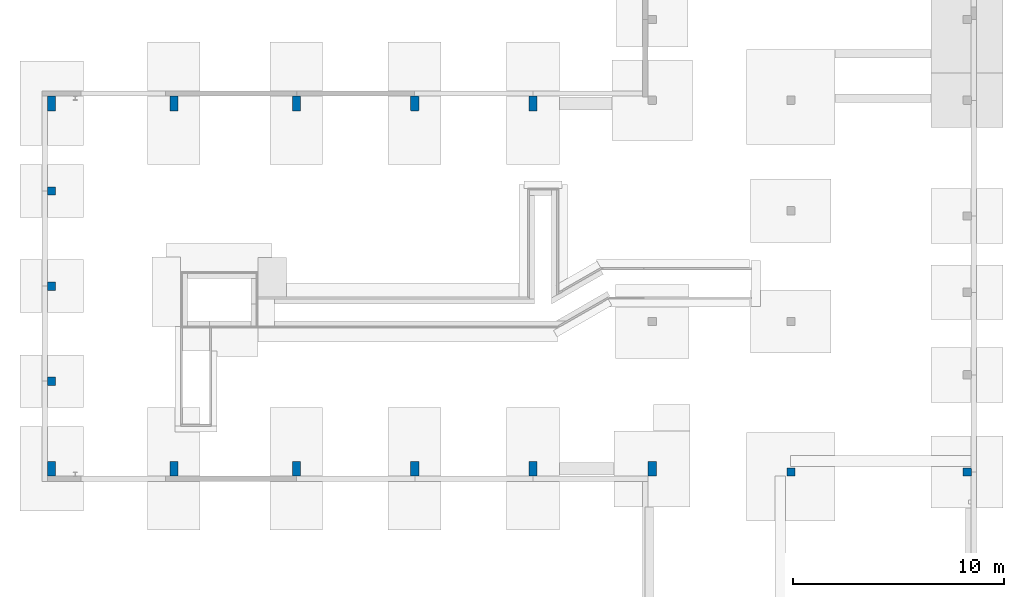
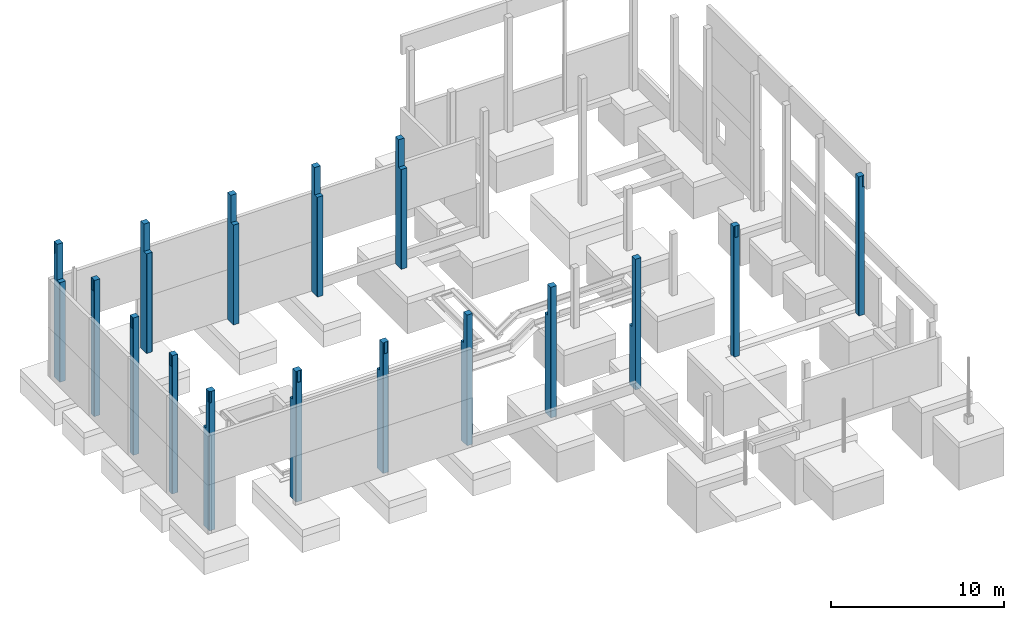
# One storey, part 11 of 12: 16 columns.
"""IFC4X3_ADD2 building model written with IfcOpenShell, lengths in millimetres."""

from ifc_helpers import new_model, si_unit, direction, frame, origin_with_axes, place, context, subcontext, project, spatial, polygons, element, save


model = new_model("IFC4X3_ADD2")

# Units and contexts
model_context = context("Model", 3, precision=1e-05, world=origin_with_axes(), true_north=direction((0.0, 1.0)))
body_context = subcontext(model_context, "Body", "Model", "MODEL_VIEW")
ifc_project = project(units=[si_unit("LENGTHUNIT", "METRE", prefix="MILLI"), si_unit("AREAUNIT", "SQUARE_METRE"), si_unit("VOLUMEUNIT", "CUBIC_METRE"), si_unit("PLANEANGLEUNIT", "RADIAN"), si_unit("TIMEUNIT", "SECOND"), si_unit("MASSUNIT", "GRAM")], contexts=[model_context])

# Site, building, storey
site_placement = place(None, origin_with_axes())
site = spatial("IfcSite", under=ifc_project, at=site_placement, Name="Site", CompositionType="ELEMENT")
building_placement = place(site_placement, origin_with_axes())
building = spatial("IfcBuilding", under=site, at=building_placement, Name="IFC Building Story")
storey_placement = place(building_placement, frame((0.0, 0.0, -800.0), z_axis=(0.0, 0.0, 1.0), x_axis=(1.0, 0.0, 0.0)))
storey = spatial("IfcBuildingStorey", under=building, at=storey_placement, Name="FOND 00 (0)", Elevation=-800.0)

# Columns
column_1_placement = place(storey_placement, frame((0.0, 0.0, 800.0), z_axis=(0.0, 0.0, 1.0), x_axis=(1.0, 0.0, 0.0)))
element("IfcColumn", 1, at=column_1_placement, inside=storey, Name="COLUMN", ObjectType="EB_CR_390*390*15", context=body_context, shape_type="Tessellation", body=[
    polygons([(48488.188, 130.0, 9060.0), (48488.188, 18.0, 9060.0), (48488.188, 18.0, 8270.0), (48488.188, 130.0, 8270.0), (48506.188, 18.0, 8270.0), (48506.188, 130.0, 8270.0), (48506.188, 130.0, 9060.0), (48376.188, 18.0, 9060.0), (48376.188, 0.0, 9060.0), (48376.188, 0.0, 8270.0), (48376.188, 18.0, 8270.0), (48491.188, 0.0, -760.0), (48131.18799999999, 0.0, -760.0), (48116.188, 15.0, -760.0), (48116.188, 375.0, -760.0), (48131.18799999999, 390.0, -760.0), (48491.188, 390.0, -760.0), (48506.188, 375.0, -760.0), (48506.188, 15.0, -760.0), (48488.188, 0.0, 8270.0), (48131.18799999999, 0.0, 9060.0), (48491.188, 0.0, 8270.0), (48116.188, 15.0, 9060.0), (48116.188, 375.0, 9060.0), (48131.188, 390.0, 9060.0), (48491.188, 390.0, 9060.0), (48506.188, 375.000000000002, 9060.0), (48506.188, 15.0, 8270.0)], [[[1, 2, 3, 4]], [[5, 6, 4, 3]], [[6, 7, 1, 4]], [[8, 9, 10, 11]], [[12, 13, 14]], [[12, 14, 15]], [[12, 15, 16]], [[12, 16, 17]], [[12, 17, 18]], [[12, 18, 19]], [[10, 9, 21]], [[10, 21, 13]], [[10, 13, 12]], [[12, 20, 10]], [[12, 22, 20]], [[23, 14, 13, 21]], [[24, 15, 14, 23]], [[25, 16, 15, 24]], [[26, 17, 16, 25]], [[27, 18, 17, 26]], [[5, 28, 19]], [[19, 6, 5]], [[19, 18, 27]], [[19, 27, 6]], [[27, 7, 6]], [[22, 12, 19, 28]], [[3, 11, 10]], [[3, 10, 20]], [[20, 22, 28]], [[20, 28, 5]], [[20, 5, 3]], [[2, 8, 11, 3]], [[1, 7, 27]], [[27, 26, 8]], [[27, 8, 1]], [[8, 2, 1]], [[26, 25, 24]], [[26, 24, 23]], [[26, 23, 8]], [[23, 21, 9]], [[23, 9, 8]]]),
])
column_2_placement = place(storey_placement, frame((0.0, 0.0, 800.0), z_axis=(0.0, 0.0, 1.0), x_axis=(1.0, 0.0, 0.0)))
element("IfcColumn", 2, at=column_2_placement, inside=storey, Name="COLUMN", ObjectType="EB_CR_390*390*15", context=body_context, shape_type="Tessellation", body=[
    polygons([(39856.18900000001, 18.0000000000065, 8460.0), (39856.18900000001, 0.0, 8460.0), (39856.18900000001, 0.0, 7660.0), (39856.18900000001, 18.0000000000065, 7660.0), (40076.18900000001, 0.0, 7660.0), (40076.18900000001, 18.0000000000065, 7660.0), (40076.18900000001, 0.0, 8460.0), (40076.18900000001, 18.0000000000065, 8460.0), (40146.189, 0.0, -760.0), (39786.18900000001, 0.0, -760.0), (39771.189, 15.0000000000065, -760.0), (39771.189, 375.000000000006, -760.0), (39786.18900000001, 390.0, -760.0), (40146.189, 390.0, -760.0), (40161.189, 375.000000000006, -760.0), (40161.189, 15.0000000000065, -760.0), (39771.189, 15.000000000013, 8460.0), (39786.18900000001, 0.0, 8460.0), (39771.189, 375.000000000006, 8460.0), (39786.18900000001, 390.0, 8460.0), (40146.189, 390.0, 8460.0), (40161.189, 375.000000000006, 8460.0), (40161.189, 15.0000000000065, 8460.0), (40146.189, 0.0, 8460.0)], [[[1, 2, 3, 4]], [[3, 5, 6, 4]], [[7, 8, 6, 5]], [[8, 1, 4, 6]], [[9, 10, 11]], [[9, 11, 12]], [[9, 12, 13]], [[9, 13, 14]], [[9, 14, 15]], [[9, 15, 16]], [[17, 11, 10, 18]], [[19, 12, 11, 17]], [[20, 13, 12, 19]], [[21, 14, 13, 20]], [[22, 15, 14, 21]], [[23, 16, 15, 22]], [[24, 9, 16, 23]], [[3, 2, 18]], [[3, 18, 10]], [[10, 9, 5]], [[10, 5, 3]], [[9, 24, 5]], [[24, 7, 5]], [[8, 7, 24]], [[8, 24, 23]], [[8, 23, 22]], [[8, 22, 21]], [[21, 20, 1]], [[21, 1, 8]], [[20, 19, 17]], [[20, 17, 1]], [[17, 18, 2]], [[17, 2, 1]]]),
])
column_3_placement = place(storey_placement, frame((0.0, 0.0, 800.0), z_axis=(0.0, 0.0, 1.0), x_axis=(1.0, 0.0, 0.0)))
element("IfcColumn", 3, at=column_3_placement, inside=storey, Name="COLUMN", ObjectType="EB_CR_390*390*15", context=body_context, shape_type="Tessellation", body=[
    polygons([(4766.189777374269, 4610.000202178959, 8200.0), (4766.189777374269, 4390.000202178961, 8200.0), (4784.189777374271, 4390.000202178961, 8200.0), (4784.189777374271, 4610.000202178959, 8200.0), (4766.189777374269, 4390.000202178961, 9000.0), (4784.189777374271, 4390.000202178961, 9000.0), (4784.189777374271, 4610.000202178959, 9000.0), (4766.189777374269, 4610.000202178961, 9000.0), (5141.189777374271, 4305.000202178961, -760.0), (4781.189777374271, 4305.000202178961, -760.0), (4766.189777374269, 4320.000202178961, -760.0), (4766.189777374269, 4680.000202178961, -760.0), (4781.189777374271, 4695.000202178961, -760.0), (5141.189777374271, 4695.000202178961, -760.0), (5156.18977737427, 4680.000202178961, -760.0), (5156.18977737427, 4320.000202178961, -760.0), (4781.189777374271, 4695.000202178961, 9000.0), (4766.189777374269, 4680.000202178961, 9000.0), (5141.189777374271, 4695.000202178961, 9000.0), (5156.18977737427, 4680.000202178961, 9000.0), (5156.18977737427, 4320.000202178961, 9000.0), (5141.18977737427, 4305.000202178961, 9000.0), (4781.189777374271, 4305.000202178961, 9000.0), (4766.189777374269, 4320.000202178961, 9000.0)], [[[1, 2, 3, 4]], [[5, 6, 3, 2]], [[6, 7, 4, 3]], [[7, 8, 1, 4]], [[9, 10, 11]], [[9, 11, 12]], [[9, 12, 13]], [[9, 13, 14]], [[9, 14, 15]], [[9, 15, 16]], [[17, 13, 12, 18]], [[19, 14, 13, 17]], [[20, 15, 14, 19]], [[21, 16, 15, 20]], [[22, 9, 16, 21]], [[23, 10, 9, 22]], [[24, 11, 10, 23]], [[1, 8, 18]], [[1, 18, 12]], [[12, 11, 2]], [[12, 2, 1]], [[11, 24, 2]], [[24, 5, 2]], [[6, 5, 24]], [[6, 24, 23]], [[6, 23, 22]], [[6, 22, 21]], [[21, 20, 7]], [[21, 7, 6]], [[20, 19, 17]], [[20, 17, 7]], [[17, 18, 8]], [[17, 8, 7]]]),
])
column_4_placement = place(storey_placement, frame((0.0, 0.0, 800.0), z_axis=(0.0, 0.0, 1.0), x_axis=(1.0, 0.0, 0.0)))
element("IfcColumn", 4, at=column_4_placement, inside=storey, Name="COLUMN", ObjectType="EB_CR_390*390*15", context=body_context, shape_type="Tessellation", body=[
    polygons([(4766.189777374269, 9109.9997253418, 8130.0), (4766.189777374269, 8889.9997253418, 8130.0), (4784.189777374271, 8889.9997253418, 8130.0), (4784.189777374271, 9109.9997253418, 8130.0), (4766.189777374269, 8889.9997253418, 8930.0), (4784.189777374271, 8889.9997253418, 8930.0), (4784.189777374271, 9109.9997253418, 8930.0), (4766.189777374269, 9109.9997253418, 8930.0), (5141.189777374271, 8804.9997253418, -760.0), (4781.189777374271, 8804.9997253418, -760.0), (4766.189777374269, 8819.9997253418, -760.0), (4766.189777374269, 9179.9997253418, -760.0), (4781.189777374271, 9194.9997253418, -760.0), (5141.189777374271, 9194.9997253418, -760.0), (5156.18977737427, 9179.9997253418, -760.0), (5156.18977737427, 8819.9997253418, -760.0), (4781.189777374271, 9194.9997253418, 8930.0), (4766.189777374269, 9179.9997253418, 8930.0), (5141.189777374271, 9194.9997253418, 8930.0), (5156.18977737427, 9179.999725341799, 8930.0), (5156.18977737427, 8819.9997253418, 8930.0), (5141.18977737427, 8804.9997253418, 8930.0), (4781.189777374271, 8804.9997253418, 8930.0), (4766.189777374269, 8819.9997253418, 8930.0)], [[[1, 2, 3, 4]], [[5, 6, 3, 2]], [[6, 7, 4, 3]], [[7, 8, 1, 4]], [[9, 10, 11]], [[9, 11, 12]], [[9, 12, 13]], [[9, 13, 14]], [[9, 14, 15]], [[9, 15, 16]], [[17, 13, 12, 18]], [[19, 14, 13, 17]], [[20, 15, 14, 19]], [[21, 16, 15, 20]], [[22, 9, 16, 21]], [[23, 10, 9, 22]], [[24, 11, 10, 23]], [[1, 8, 18]], [[1, 18, 12]], [[12, 11, 2]], [[12, 2, 1]], [[11, 24, 2]], [[24, 5, 2]], [[6, 5, 24]], [[6, 24, 23]], [[6, 23, 22]], [[6, 22, 21]], [[21, 20, 7]], [[21, 7, 6]], [[20, 19, 17]], [[20, 17, 7]], [[17, 18, 8]], [[17, 8, 7]]]),
])
column_5_placement = place(storey_placement, frame((0.0, 0.0, 800.0), z_axis=(0.0, 0.0, 1.0), x_axis=(1.0, 0.0, 0.0)))
element("IfcColumn", 5, at=column_5_placement, inside=storey, Name="COLUMN", ObjectType="EB_CR_390*390*15", context=body_context, shape_type="Tessellation", body=[
    polygons([(4766.189777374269, 13609.9997253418, 8060.0), (4766.189777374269, 13389.9997253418, 8060.0), (4784.189777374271, 13389.9997253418, 8060.0), (4784.189777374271, 13609.9997253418, 8060.0), (4766.189777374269, 13389.9997253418, 8860.0), (4784.189777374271, 13389.9997253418, 8860.0), (4784.189777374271, 13609.9997253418, 8860.0), (4766.189777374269, 13609.9997253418, 8860.0), (5141.189777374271, 13304.9997253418, -760.0), (4781.189777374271, 13304.9997253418, -760.0), (4766.189777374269, 13319.9997253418, -760.0), (4766.189777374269, 13679.9997253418, -760.0), (4781.189777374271, 13694.9997253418, -760.0), (5141.189777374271, 13694.9997253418, -760.0), (5156.18977737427, 13679.9997253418, -760.0), (5156.18977737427, 13319.9997253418, -760.0), (4781.18977737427, 13694.9997253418, 8860.0), (4766.189777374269, 13679.9997253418, 8860.0), (5141.189777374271, 13694.9997253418, 8860.0), (5156.18977737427, 13679.9997253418, 8860.0), (5156.18977737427, 13319.9997253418, 8860.0), (5141.189777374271, 13304.9997253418, 8860.0), (4781.189777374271, 13304.9997253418, 8860.0), (4766.189777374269, 13319.9997253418, 8860.0)], [[[1, 2, 3, 4]], [[5, 6, 3, 2]], [[6, 7, 4, 3]], [[7, 8, 1, 4]], [[9, 10, 11]], [[9, 11, 12]], [[9, 12, 13]], [[9, 13, 14]], [[9, 14, 15]], [[9, 15, 16]], [[17, 13, 12, 18]], [[19, 14, 13, 17]], [[20, 15, 14, 19]], [[21, 16, 15, 20]], [[22, 9, 16, 21]], [[23, 10, 9, 22]], [[24, 11, 10, 23]], [[1, 8, 18]], [[1, 18, 12]], [[12, 11, 2]], [[12, 2, 1]], [[11, 24, 2]], [[24, 5, 2]], [[6, 5, 24]], [[6, 24, 23]], [[6, 23, 22]], [[6, 22, 21]], [[21, 20, 7]], [[21, 7, 6]], [[20, 19, 17]], [[20, 17, 7]], [[17, 18, 8]], [[17, 8, 7]]]),
])
column_6_placement = place(storey_placement, frame((0.0, 0.0, 800.0), z_axis=(0.0, 0.0, 1.0), x_axis=(1.0, 0.0, 0.0)))
element("IfcColumn", 6, at=column_6_placement, inside=storey, Name="COLUMN", ObjectType="EB_CR_700*390*15", context=body_context, shape_type="Tessellation", body=[
    polygons([(4784.189348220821, -3.62396240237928e-05, 8270.0), (4896.18934822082, -3.62396240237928e-05, 8270.0), (4896.18934822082, 17.99996376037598, 8270.0), (4784.189348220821, 17.99996376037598, 8270.0), (4896.18934822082, -3.62396240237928e-05, 9060.0), (4896.18934822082, 17.99996376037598, 9060.0), (4784.189348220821, 17.99996376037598, 9060.0), (4781.189348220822, 699.999963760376, 6280.0), (4781.189348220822, 699.999963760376, -760.0), (4766.18934822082, 684.999963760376, -760.0), (4766.18934822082, 684.999963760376, 6280.0), (5141.189348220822, 699.999963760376, 6280.0), (5141.189348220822, 699.999963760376, -760.0), (5156.18934822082, 684.9999637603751, 6280.0), (5156.18934822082, 684.999963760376, -760.0), (5141.189348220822, -3.62396240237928e-05, -760.0), (4781.189348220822, -3.62396240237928e-05, -760.0), (4766.18934822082, 14.99996376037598, -760.0), (5156.18934822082, 14.99996376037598, -760.0), (4784.189348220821, 129.999963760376, 9060.0), (4766.18934822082, 129.999963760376, 9060.0), (4766.18934822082, 129.999963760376, 8270.0), (4784.189348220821, 129.999963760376, 8270.0), (4766.18934822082, 399.999963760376, 9060.0), (4766.18934822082, 399.999963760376, 6280.0), (4766.18934822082, 14.99996376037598, 8270.0), (4766.18934822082, 17.99996376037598, 8270.0), (5156.18934822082, 399.999963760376, 9060.0), (5156.18934822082, 399.999963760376, 6280.0), (5156.18934822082, 14.99996376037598, 9060.0), (5141.189348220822, -3.62396240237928e-05, 9060.0), (4781.189348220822, -3.62396240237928e-05, 8270.0)], [[[1, 2, 3, 4]], [[5, 6, 3, 2]], [[6, 7, 4, 3]], [[8, 9, 10, 11]], [[12, 13, 9, 8]], [[14, 15, 13, 12]], [[16, 17, 18]], [[16, 18, 10]], [[16, 10, 9]], [[16, 9, 13]], [[16, 13, 15]], [[16, 15, 19]], [[20, 21, 22, 23]], [[25, 11, 10]], [[10, 18, 26]], [[10, 26, 25]], [[22, 21, 24]], [[22, 24, 25]], [[25, 27, 22]], [[25, 26, 27]], [[24, 28, 29, 25]], [[29, 14, 12]], [[29, 12, 8]], [[29, 8, 11]], [[29, 11, 25]], [[29, 28, 30]], [[29, 30, 19]], [[19, 15, 29]], [[15, 14, 29]], [[31, 16, 19, 30]], [[1, 32, 17]], [[17, 2, 1]], [[17, 16, 31]], [[17, 31, 2]], [[31, 5, 2]], [[26, 18, 17, 32]], [[4, 23, 22]], [[4, 22, 27]], [[27, 26, 32]], [[27, 32, 1]], [[27, 1, 4]], [[7, 20, 23, 4]], [[6, 5, 31]], [[31, 30, 20]], [[31, 20, 6]], [[20, 7, 6]], [[30, 28, 24]], [[30, 24, 20]], [[24, 21, 20]]]),
])
column_7_placement = place(storey_placement, frame((0.0, 0.0, 800.0), z_axis=(0.0, 0.0, 1.0), x_axis=(1.0, 0.0, 0.0)))
element("IfcColumn", 7, at=column_7_placement, inside=storey, Name="COLUMN", ObjectType="EB_CR_700*390*15", context=body_context, shape_type="Tessellation", body=[
    polygons([(4784.189348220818, 17981.9997253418, 8010.0), (4766.18934822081, 17981.9997253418, 8010.0), (4766.18934822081, 17869.9997253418, 8010.0), (4784.189348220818, 17869.9997253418, 8010.0), (4766.18934822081, 17869.9997253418, 8800.0), (4784.189348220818, 17869.9997253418, 8800.0), (4784.189348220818, 17981.9997253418, 8800.0), (5156.18934822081, 17599.9997253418, 6280.0), (5156.18934822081, 17314.9997253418, 6280.0), (5156.18934822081, 17314.9997253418, -760.0), (5156.18934822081, 17984.9997253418, -760.0), (5156.18934822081, 17984.9997253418, 8800.0), (5156.18934822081, 17599.9997253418, 8800.0), (4766.18934822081, 17599.9997253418, 8800.0), (4766.18934822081, 17599.9997253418, 6280.0), (4766.18934822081, 17314.9997253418, 6280.0), (4766.18934822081, 17314.9997253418, -760.0), (4781.189348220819, 17299.9997253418, -760.0), (4781.189348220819, 17299.9997253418, 6280.0), (5141.189348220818, 17299.9997253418, -760.0), (5141.189348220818, 17299.9997253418, 6280.0), (4766.18934822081, 17984.9997253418, -760.0), (4781.189348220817, 17999.9997253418, -760.0), (5141.189348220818, 17999.9997253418, -760.0), (5141.189348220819, 17999.9997253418, 8800.0), (4896.18934822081, 17999.9997253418, 8800.0), (4896.18934822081, 17981.9997253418, 8800.0), (4766.18934822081, 17984.9997253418, 8010.0), (4781.189348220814, 17999.9997253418, 8010.0), (4784.189348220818, 17999.9997253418, 8010.0), (4896.18934822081, 17999.9997253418, 8010.0), (4896.18934822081, 17981.9997253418, 8010.0)], [[[1, 2, 3, 4]], [[5, 6, 4, 3]], [[6, 7, 1, 4]], [[8, 9, 10]], [[10, 11, 12]], [[10, 12, 8]], [[12, 13, 8]], [[8, 13, 14, 15]], [[16, 17, 18, 19]], [[19, 18, 20, 21]], [[9, 8, 15]], [[9, 15, 16]], [[9, 16, 19]], [[9, 19, 21]], [[21, 20, 10, 9]], [[20, 18, 17]], [[20, 17, 22]], [[20, 22, 23]], [[20, 23, 24]], [[20, 24, 11]], [[20, 11, 10]], [[12, 11, 24, 25]], [[6, 5, 14]], [[6, 14, 27]], [[27, 7, 6]], [[14, 13, 12]], [[14, 12, 27]], [[12, 25, 26]], [[12, 26, 27]], [[2, 28, 22]], [[3, 2, 15]], [[15, 14, 5]], [[15, 5, 3]], [[15, 2, 22]], [[15, 22, 17]], [[17, 16, 15]], [[29, 23, 22, 28]], [[31, 26, 25]], [[31, 25, 24]], [[31, 24, 23]], [[23, 30, 31]], [[23, 29, 30]], [[27, 26, 31, 32]], [[30, 29, 28]], [[30, 28, 2]], [[30, 2, 1]], [[1, 32, 31]], [[1, 31, 30]], [[7, 27, 32, 1]]]),
])
column_8_placement = place(storey_placement, frame((0.0, 0.0, 800.0), z_axis=(0.0, 0.0, 1.0), x_axis=(1.0, 0.0, 0.0)))
element("IfcColumn", 8, at=column_8_placement, inside=storey, Name="COLUMN", ObjectType="EB_CR_700*390*15", context=body_context, shape_type="Tessellation", body=[
    polygons([(10646.1886362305, 17.99996376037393, 8460.0), (10646.1886362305, -3.6239626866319e-05, 8460.0), (10646.1886362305, -3.6239626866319e-05, 7660.0), (10646.1886362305, 17.99996376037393, 7660.0), (10866.1886362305, -3.6239626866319e-05, 7660.0), (10866.1886362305, 17.99996376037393, 7660.0), (10866.1886362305, -3.6239626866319e-05, 8460.0), (10866.1886362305, 17.99996376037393, 8460.0), (10576.1886362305, 699.9999637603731, 6280.0), (10576.1886362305, 699.9999637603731, -760.0), (10561.1886362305, 684.9999637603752, -760.0), (10561.1886362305, 684.9999637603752, 6280.0), (10936.1886362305, 699.9999637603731, 6280.0), (10936.1886362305, 699.9999637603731, -760.0), (10951.1886362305, 684.9999637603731, 6280.0), (10951.1886362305, 684.9999637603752, -760.0), (10936.1886362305, -3.6239626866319e-05, -760.0), (10576.1886362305, -3.6239626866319e-05, -760.0), (10561.1886362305, 14.99996376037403, -760.0), (10951.1886362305, 14.99996376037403, -760.0), (10561.1886362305, 14.99996376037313, 8460.0), (10576.1886362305, -3.6239626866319e-05, 8460.0), (10561.1886362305, 399.9999637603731, 8460.0), (10561.1886362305, 399.9999637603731, 6280.0), (10951.1886362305, 399.9999637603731, 8460.0), (10951.1886362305, 399.9999637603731, 6280.0), (10951.1886362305, 14.99996376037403, 8460.0), (10936.1886362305, -3.6239626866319e-05, 8460.0)], [[[1, 2, 3, 4]], [[3, 5, 6, 4]], [[7, 8, 6, 5]], [[8, 1, 4, 6]], [[9, 10, 11, 12]], [[13, 14, 10, 9]], [[15, 16, 14, 13]], [[17, 18, 19]], [[17, 19, 11]], [[17, 11, 10]], [[17, 10, 14]], [[17, 14, 16]], [[17, 16, 20]], [[21, 19, 18, 22]], [[24, 12, 11]], [[11, 19, 21]], [[11, 21, 24]], [[21, 23, 24]], [[23, 25, 26, 24]], [[26, 15, 13]], [[26, 13, 9]], [[26, 9, 12]], [[26, 12, 24]], [[26, 25, 27]], [[26, 27, 20]], [[26, 20, 16]], [[16, 15, 26]], [[28, 17, 20, 27]], [[3, 2, 22]], [[3, 22, 18]], [[18, 17, 5]], [[18, 5, 3]], [[17, 28, 5]], [[28, 7, 5]], [[8, 7, 28]], [[8, 28, 27]], [[8, 27, 25]], [[25, 23, 1]], [[25, 1, 8]], [[23, 21, 1]], [[21, 22, 2]], [[21, 2, 1]]]),
])
column_9_placement = place(storey_placement, frame((0.0, 0.0, 800.0), z_axis=(0.0, 0.0, 1.0), x_axis=(1.0, 0.0, 0.0)))
element("IfcColumn", 9, at=column_9_placement, inside=storey, Name="COLUMN", ObjectType="EB_CR_700*390*15", context=body_context, shape_type="Tessellation", body=[
    polygons([(16446.1888269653, 17.99996376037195, 8460.0), (16446.1888269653, -3.62396279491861e-05, 8460.0), (16446.1888269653, -3.62396279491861e-05, 7660.0), (16446.1888269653, 17.99996376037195, 7660.0), (16666.1888269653, -3.62396279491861e-05, 7660.0), (16666.1888269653, 17.99996376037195, 7660.0), (16666.1888269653, -3.62396279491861e-05, 8460.0), (16666.1888269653, 17.99996376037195, 8460.0), (16376.1888269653, 699.999963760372, 6280.0), (16376.1888269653, 699.999963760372, -760.0), (16361.1888269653, 684.999963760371, -760.0), (16361.1888269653, 684.999963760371, 6280.0), (16736.1888269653, 699.999963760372, 6280.0), (16736.1888269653, 699.999963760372, -760.0), (16751.1888269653, 684.999963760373, 6280.0), (16751.1888269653, 684.999963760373, -760.0), (16736.1888269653, -3.62396279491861e-05, -760.0), (16376.1888269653, -3.62396279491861e-05, -760.0), (16361.1888269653, 14.99996376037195, -760.0), (16751.1888269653, 14.99996376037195, -760.0), (16361.1888269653, 14.99996376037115, 8460.0), (16376.1888269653, -3.62396279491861e-05, 8460.0), (16361.1888269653, 399.999963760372, 8460.0), (16361.1888269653, 399.999963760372, 6280.0), (16751.1888269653, 399.999963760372, 8460.0), (16751.1888269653, 399.999963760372, 6280.0), (16751.1888269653, 14.99996376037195, 8460.0), (16736.1888269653, -3.62396279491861e-05, 8460.0)], [[[1, 2, 3, 4]], [[3, 5, 6, 4]], [[7, 8, 6, 5]], [[8, 1, 4, 6]], [[9, 10, 11, 12]], [[13, 14, 10, 9]], [[15, 16, 14, 13]], [[17, 18, 19]], [[17, 19, 11]], [[17, 11, 10]], [[17, 10, 14]], [[17, 14, 16]], [[17, 16, 20]], [[21, 19, 18, 22]], [[24, 12, 11]], [[11, 19, 21]], [[11, 21, 24]], [[21, 23, 24]], [[23, 25, 26, 24]], [[26, 15, 13]], [[26, 13, 9]], [[26, 9, 12]], [[26, 12, 24]], [[26, 25, 27]], [[26, 27, 20]], [[26, 20, 16]], [[16, 15, 26]], [[28, 17, 20, 27]], [[3, 2, 22]], [[3, 22, 18]], [[18, 17, 5]], [[18, 5, 3]], [[17, 28, 5]], [[28, 7, 5]], [[8, 7, 28]], [[8, 28, 27]], [[8, 27, 25]], [[25, 23, 1]], [[25, 1, 8]], [[23, 21, 1]], [[21, 22, 2]], [[21, 2, 1]]]),
])
column_10_placement = place(storey_placement, frame((0.0, 0.0, 800.0), z_axis=(0.0, 0.0, 1.0), x_axis=(1.0, 0.0, 0.0)))
element("IfcColumn", 10, at=column_10_placement, inside=storey, Name="COLUMN", ObjectType="EB_CR_700*390*15", context=body_context, shape_type="Tessellation", body=[
    polygons([(10866.18863623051, 17999.9997253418, 7399.94999999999), (10646.18863623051, 17999.9997253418, 7399.94999999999), (10646.18863623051, 17981.9997253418, 7399.94999999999), (10866.18863623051, 17981.9997253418, 7399.94999999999), (10646.18863623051, 17999.9997253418, 8200.0), (10646.18863623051, 17981.9997253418, 8199.94999999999), (10866.18863623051, 17981.9997253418, 8199.94999999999), (10866.18863623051, 17999.9997253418, 8199.94999999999), (10576.18863623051, 17999.9997253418, 8200.0), (10576.18863623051, 17999.9997253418, -760.0), (10561.18863623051, 17984.9997253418, -760.0), (10561.18863623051, 17984.9997253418, 8200.0), (10951.1886355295, 17599.9997253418, 6280.0), (10951.1886355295, 17314.9997253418, 6280.0), (10951.1886355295, 17314.9997253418, -760.0), (10951.1886355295, 17984.9997253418, -760.0), (10951.1886355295, 17984.9997253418, 8200.0), (10951.1886355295, 17599.9997253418, 8200.0), (10561.18863623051, 17599.9997253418, 8200.0), (10561.1886362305, 17599.9997253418, 6280.0), (10561.18863623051, 17314.9997253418, -760.0), (10561.18863623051, 17314.9997253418, 6280.0), (10576.18863623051, 17299.9997253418, -760.0), (10576.18863623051, 17299.9997253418, 6280.0), (10936.18863623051, 17299.9997253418, -760.0), (10936.18863623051, 17299.9997253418, 6280.0), (10936.18863623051, 17999.9997253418, -760.0), (10936.18863623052, 17999.9997253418, 8200.0), (10646.18863635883, 17999.99970810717, 8200.006189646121), (10561.1886355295, 17984.99981949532, 8199.966185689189), (10561.18863634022, 17600.0027970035, 8198.89418911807), (10951.1886355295, 17600.00281951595, 8198.886103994), (10936.18863623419, 17999.9997253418, 8200.000177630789), (10866.18863730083, 17999.99958158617, 8200.00162841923), (10576.18863638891, 17999.99970406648, 8200.00764082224)], [[[1, 2, 3, 4]], [[2, 5, 6, 3]], [[6, 7, 4, 3]], [[7, 8, 1, 4]], [[9, 10, 11, 12]], [[13, 14, 15]], [[15, 16, 17]], [[15, 17, 13]], [[17, 18, 13]], [[13, 18, 19, 20]], [[20, 19, 12]], [[20, 12, 11]], [[20, 11, 21]], [[21, 22, 20]], [[22, 21, 23, 24]], [[24, 23, 25, 26]], [[14, 13, 20]], [[14, 20, 22]], [[14, 22, 24]], [[14, 24, 26]], [[26, 25, 15, 14]], [[25, 23, 21]], [[25, 21, 11]], [[25, 11, 10]], [[25, 10, 27]], [[25, 27, 16]], [[25, 16, 15]], [[17, 16, 27, 28]], [[6, 29, 9]], [[6, 9, 30]], [[6, 30, 31]], [[31, 32, 7]], [[31, 7, 6]], [[32, 17, 7]], [[17, 33, 8]], [[17, 8, 7]], [[1, 34, 28]], [[1, 28, 27]], [[27, 10, 2]], [[27, 2, 1]], [[10, 35, 2]], [[35, 5, 2]]]),
])
column_11_placement = place(storey_placement, frame((0.0, 0.0, 800.0), z_axis=(0.0, 0.0, 1.0), x_axis=(1.0, 0.0, 0.0)))
element("IfcColumn", 11, at=column_11_placement, inside=storey, Name="COLUMN", ObjectType="EB_CR_700*390*15", context=body_context, shape_type="Tessellation", body=[
    polygons([(16666.18882696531, 17999.9997253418, 7399.94999999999), (16446.18882696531, 17999.9997253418, 7399.94999999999), (16446.18882696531, 17981.9997253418, 7399.94999999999), (16666.18882696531, 17981.9997253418, 7399.94999999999), (16446.18882696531, 17999.9997253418, 8200.0), (16446.18882696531, 17981.9997253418, 8199.94999999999), (16666.18882696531, 17981.9997253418, 8199.94999999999), (16666.18882696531, 17999.9997253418, 8199.94999999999), (16376.18882696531, 17999.9997253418, 8200.0), (16376.18882696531, 17999.9997253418, -760.0), (16361.18882696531, 17984.9997253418, -760.0), (16361.18882696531, 17984.9997253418, 8200.0), (16751.1888262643, 17599.9997253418, 6280.0), (16751.1888262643, 17314.9997253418, 6280.0), (16751.1888262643, 17314.9997253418, -760.0), (16751.1888262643, 17984.9997253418, -760.0), (16751.1888262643, 17984.9997253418, 8200.0), (16751.1888262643, 17599.9997253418, 8200.0), (16361.18882696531, 17599.9997253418, 8200.0), (16361.1888269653, 17599.9997253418, 6280.0), (16361.18882696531, 17314.9997253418, -760.0), (16361.18882696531, 17314.9997253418, 6280.0), (16376.18882696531, 17299.9997253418, -760.0), (16376.18882696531, 17299.9997253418, 6280.0), (16736.18882696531, 17299.9997253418, -760.0), (16736.18882696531, 17299.9997253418, 6280.0), (16736.18882696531, 17999.9997253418, -760.0), (16736.18882696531, 17999.9997253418, 8200.0), (16446.18882709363, 17999.99970810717, 8200.006189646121), (16361.1888262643, 17984.99981949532, 8199.966185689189), (16361.18882707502, 17600.0027970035, 8198.89418911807), (16751.1888262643, 17600.00281951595, 8198.886103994), (16736.188826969, 17999.9997253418, 8200.000177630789), (16666.18882803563, 17999.99958158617, 8200.00162841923), (16376.18882712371, 17999.99970406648, 8200.00764082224)], [[[1, 2, 3, 4]], [[2, 5, 6, 3]], [[6, 7, 4, 3]], [[7, 8, 1, 4]], [[9, 10, 11, 12]], [[13, 14, 15]], [[15, 16, 17]], [[15, 17, 13]], [[17, 18, 13]], [[13, 18, 19, 20]], [[20, 19, 12]], [[20, 12, 11]], [[20, 11, 21]], [[21, 22, 20]], [[22, 21, 23, 24]], [[24, 23, 25, 26]], [[14, 13, 20]], [[14, 20, 22]], [[14, 22, 24]], [[14, 24, 26]], [[26, 25, 15, 14]], [[25, 23, 21]], [[25, 21, 11]], [[25, 11, 10]], [[25, 10, 27]], [[25, 27, 16]], [[25, 16, 15]], [[17, 16, 27, 28]], [[6, 29, 9]], [[6, 9, 30]], [[6, 30, 31]], [[31, 32, 7]], [[31, 7, 6]], [[32, 17, 7]], [[17, 33, 8]], [[17, 8, 7]], [[1, 34, 28]], [[1, 28, 27]], [[27, 10, 2]], [[27, 2, 1]], [[10, 35, 2]], [[35, 5, 2]]]),
])
column_12_placement = place(storey_placement, frame((0.0, 0.0, 800.0), z_axis=(0.0, 0.0, 1.0), x_axis=(1.0, 0.0, 0.0)))
element("IfcColumn", 12, at=column_12_placement, inside=storey, Name="COLUMN", ObjectType="EB_CR_700*390*15", context=body_context, shape_type="Tessellation", body=[
    polygons([(22351.1892084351, 17314.9997253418, 6280.0), (22351.1892084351, 17599.9997253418, 6280.0), (21961.1892084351, 17599.9997253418, 6280.0), (21961.1892084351, 17314.9997253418, 6280.0), (21976.18920843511, 17299.9997253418, 6280.0), (22336.1892084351, 17299.9997253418, 6280.0), (22351.1892084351, 17599.9997253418, 8200.0), (21961.1892084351, 17599.9997253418, 8200.0), (22336.1892084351, 17299.9997253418, -760.0), (21976.18920843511, 17299.9997253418, -760.0), (21961.1892084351, 17314.9997253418, -760.0), (21961.1892084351, 17984.9997253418, -760.0), (21976.18920843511, 17999.9997253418, -760.0), (22336.1892084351, 17999.9997253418, -760.0), (22351.1892084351, 17984.9997253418, -760.0), (22351.1892084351, 17314.9997253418, -760.0), (21976.1892084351, 17999.9997253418, 8200.0), (21961.1892084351, 17984.9997253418, 8200.0), (22336.1892084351, 17999.9997253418, 8200.0), (22351.1892084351, 17984.9997253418, 8200.0)], [[[1, 2, 3]], [[1, 3, 4]], [[1, 4, 5]], [[1, 5, 6]], [[2, 7, 8, 3]], [[9, 10, 11]], [[9, 11, 12]], [[9, 12, 13]], [[9, 13, 14]], [[9, 14, 15]], [[9, 15, 16]], [[17, 13, 12, 18]], [[19, 14, 13, 17]], [[20, 15, 14, 19]], [[2, 1, 16]], [[16, 15, 20]], [[16, 20, 2]], [[20, 7, 2]], [[6, 9, 16, 1]], [[5, 10, 9, 6]], [[4, 11, 10, 5]], [[3, 8, 18]], [[3, 18, 12]], [[3, 12, 11]], [[11, 4, 3]], [[7, 20, 19]], [[7, 19, 17]], [[7, 17, 18]], [[7, 18, 8]]]),
])
column_13_placement = place(storey_placement, frame((0.0, 0.0, 800.0), z_axis=(0.0, 0.0, 1.0), x_axis=(1.0, 0.0, 0.0)))
element("IfcColumn", 13, at=column_13_placement, inside=storey, Name="COLUMN", ObjectType="EB_CR_700*390*15", context=body_context, shape_type="Tessellation", body=[
    polygons([(27951.1886362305, 17314.9997253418, 6280.0), (27951.1886362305, 17599.9997253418, 6280.0), (27561.1886362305, 17599.9997253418, 6280.0), (27561.1886362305, 17314.9997253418, 6280.0), (27576.18863623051, 17299.9997253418, 6280.0), (27936.18863623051, 17299.9997253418, 6280.0), (27951.1886362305, 17599.9997253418, 8200.0), (27561.1886362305, 17599.9997253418, 8200.0), (27936.18863623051, 17299.9997253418, -760.0), (27576.18863623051, 17299.9997253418, -760.0), (27561.1886362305, 17314.9997253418, -760.0), (27561.1886362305, 17984.9997253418, -760.0), (27576.18863623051, 17999.9997253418, -760.0), (27936.18863623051, 17999.9997253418, -760.0), (27951.1886362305, 17984.9997253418, -760.0), (27951.1886362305, 17314.9997253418, -760.0), (27576.18863623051, 17999.9997253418, 8200.0), (27561.1886362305, 17984.9997253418, 8200.0), (27936.18863623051, 17999.9997253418, 8200.0), (27951.1886362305, 17984.9997253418, 8200.0)], [[[1, 2, 3]], [[1, 3, 4]], [[1, 4, 5]], [[1, 5, 6]], [[2, 7, 8, 3]], [[9, 10, 11]], [[9, 11, 12]], [[9, 12, 13]], [[9, 13, 14]], [[9, 14, 15]], [[9, 15, 16]], [[17, 13, 12, 18]], [[19, 14, 13, 17]], [[20, 15, 14, 19]], [[2, 1, 16]], [[16, 15, 20]], [[16, 20, 2]], [[20, 7, 2]], [[6, 9, 16, 1]], [[5, 10, 9, 6]], [[4, 11, 10, 5]], [[3, 8, 18]], [[3, 18, 12]], [[3, 12, 11]], [[11, 4, 3]], [[7, 20, 19]], [[7, 19, 17]], [[7, 17, 18]], [[7, 18, 8]]]),
])
column_14_placement = place(storey_placement, frame((0.0, 0.0, 800.0), z_axis=(0.0, 0.0, 1.0), x_axis=(1.0, 0.0, 0.0)))
element("IfcColumn", 14, at=column_14_placement, inside=storey, Name="COLUMN", ObjectType="EB_CR_700*390*15", context=body_context, shape_type="Tessellation", body=[
    polygons([(21961.1892084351, 399.9999637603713, 8460.0), (22351.1892084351, 399.9999637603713, 8460.0), (22351.1892084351, 399.9999637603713, 6280.0), (21961.1892084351, 399.9999637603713, 6280.0), (22351.1892084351, 684.9999637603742, 6280.0), (22336.18920843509, 699.9999637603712, 6280.0), (21976.1892084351, 699.9999637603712, 6280.0), (21961.1892084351, 684.9999637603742, 6280.0), (21961.1892084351, 14.99996376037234, 8460.0), (21961.1892084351, 14.99996376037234, -760.0), (21976.1892084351, -3.62396287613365e-05, -760.0), (21976.1892084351, -3.62396287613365e-05, 8460.0), (22336.18920843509, -3.62396287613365e-05, -760.0), (22336.18920843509, -3.62396287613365e-05, 8460.0), (22351.1892084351, 14.99996376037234, -760.0), (22351.1892084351, 14.99996376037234, 8460.0), (21961.1892084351, 684.9999637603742, -760.0), (21976.1892084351, 699.9999637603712, -760.0), (22336.18920843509, 699.9999637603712, -760.0), (22351.1892084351, 684.9999637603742, -760.0)], [[[1, 2, 3, 4]], [[3, 5, 6]], [[3, 6, 7]], [[3, 7, 8]], [[3, 8, 4]], [[9, 10, 11, 12]], [[12, 11, 13, 14]], [[14, 13, 15, 16]], [[13, 11, 10]], [[13, 10, 17]], [[13, 17, 18]], [[13, 18, 19]], [[13, 19, 20]], [[13, 20, 15]], [[3, 2, 16]], [[3, 16, 15]], [[3, 15, 20]], [[20, 5, 3]], [[1, 9, 12]], [[1, 12, 14]], [[1, 14, 16]], [[1, 16, 2]], [[4, 8, 17]], [[17, 10, 9]], [[17, 9, 4]], [[9, 1, 4]], [[7, 18, 17, 8]], [[6, 19, 18, 7]], [[5, 20, 19, 6]]]),
])
column_15_placement = place(storey_placement, frame((0.0, 0.0, 800.0), z_axis=(0.0, 0.0, 1.0), x_axis=(1.0, 0.0, 0.0)))
element("IfcColumn", 15, at=column_15_placement, inside=storey, Name="COLUMN", ObjectType="EB_CR_700*390*15", context=body_context, shape_type="Tessellation", body=[
    polygons([(27561.1886362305, 399.999963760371, 8460.0), (27951.1886362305, 399.999963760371, 8460.0), (27951.1886362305, 399.999963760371, 6280.0), (27561.1886362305, 399.999963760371, 6280.0), (27951.1886362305, 684.999963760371, 6280.0), (27936.18863623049, 699.999963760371, 6280.0), (27576.18863623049, 699.999963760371, 6280.0), (27561.1886362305, 684.999963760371, 6280.0), (27561.1886362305, 14.99996376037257, 8460.0), (27561.1886362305, 14.99996376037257, -760.0), (27576.1886362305, -3.62396290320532e-05, -760.0), (27576.1886362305, -3.62396290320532e-05, 8460.0), (27936.18863623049, -3.62396290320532e-05, -760.0), (27936.18863623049, -3.62396290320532e-05, 8460.0), (27951.1886362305, 14.99996376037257, -760.0), (27951.1886362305, 14.99996376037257, 8460.0), (27561.1886362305, 684.999963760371, -760.0), (27576.18863623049, 699.999963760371, -760.0), (27936.18863623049, 699.999963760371, -760.0), (27951.1886362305, 684.999963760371, -760.0)], [[[1, 2, 3, 4]], [[3, 5, 6]], [[3, 6, 7]], [[3, 7, 8]], [[3, 8, 4]], [[9, 10, 11, 12]], [[12, 11, 13, 14]], [[14, 13, 15, 16]], [[13, 11, 10]], [[13, 10, 17]], [[13, 17, 18]], [[13, 18, 19]], [[13, 19, 20]], [[13, 20, 15]], [[3, 2, 16]], [[3, 16, 15]], [[3, 15, 20]], [[20, 5, 3]], [[1, 9, 12]], [[1, 12, 14]], [[1, 14, 16]], [[1, 16, 2]], [[4, 8, 17]], [[17, 10, 9]], [[17, 9, 4]], [[9, 1, 4]], [[7, 18, 17, 8]], [[6, 19, 18, 7]], [[5, 20, 19, 6]]]),
])
column_16_placement = place(storey_placement, frame((0.0, 0.0, 800.0), z_axis=(0.0, 0.0, 1.0), x_axis=(1.0, 0.0, 0.0)))
element("IfcColumn", 16, at=column_16_placement, inside=storey, Name="COLUMN", ObjectType="EB_CR_700*390*15", context=body_context, shape_type="Tessellation", body=[
    polygons([(33210.1882547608, 399.999963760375, 8460.0), (33600.1882547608, 399.999963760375, 8460.0), (33600.1882547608, 399.999963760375, 3490.0), (33210.1882547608, 399.999963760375, 3490.0), (33600.1882547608, 684.9999637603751, 3490.0), (33585.1882547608, 699.9999637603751, 3490.0), (33225.1882547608, 699.9999637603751, 3490.0), (33210.1882547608, 684.9999637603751, 3490.0), (33210.1882547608, 14.99996376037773, 8460.0), (33210.1882547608, 14.99996376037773, -760.0), (33225.1882547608, -3.62396249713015e-05, -760.0), (33225.1882547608, -3.62396249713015e-05, 8460.0), (33585.1882547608, -3.62396249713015e-05, -760.0), (33585.1882547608, -3.62396249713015e-05, 8460.0), (33600.1882547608, 14.99996376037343, -760.0), (33600.1882547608, 14.99996376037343, 8460.0), (33210.1882547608, 684.9999637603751, -760.0), (33225.1882547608, 699.9999637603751, -760.0), (33585.1882547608, 699.9999637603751, -760.0), (33600.1882547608, 684.9999637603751, -760.0)], [[[1, 2, 3, 4]], [[3, 5, 6]], [[3, 6, 7]], [[3, 7, 8]], [[3, 8, 4]], [[9, 10, 11, 12]], [[12, 11, 13, 14]], [[14, 13, 15, 16]], [[13, 11, 10]], [[13, 10, 17]], [[13, 17, 18]], [[13, 18, 19]], [[13, 19, 20]], [[13, 20, 15]], [[3, 2, 16]], [[16, 15, 3]], [[15, 20, 3]], [[20, 5, 3]], [[1, 9, 12]], [[1, 12, 14]], [[1, 14, 16]], [[1, 16, 2]], [[4, 8, 17]], [[4, 17, 10]], [[4, 10, 9]], [[9, 1, 4]], [[7, 18, 17, 8]], [[6, 19, 18, 7]], [[5, 20, 19, 6]]]),
])

save(model, "model.ifc")
